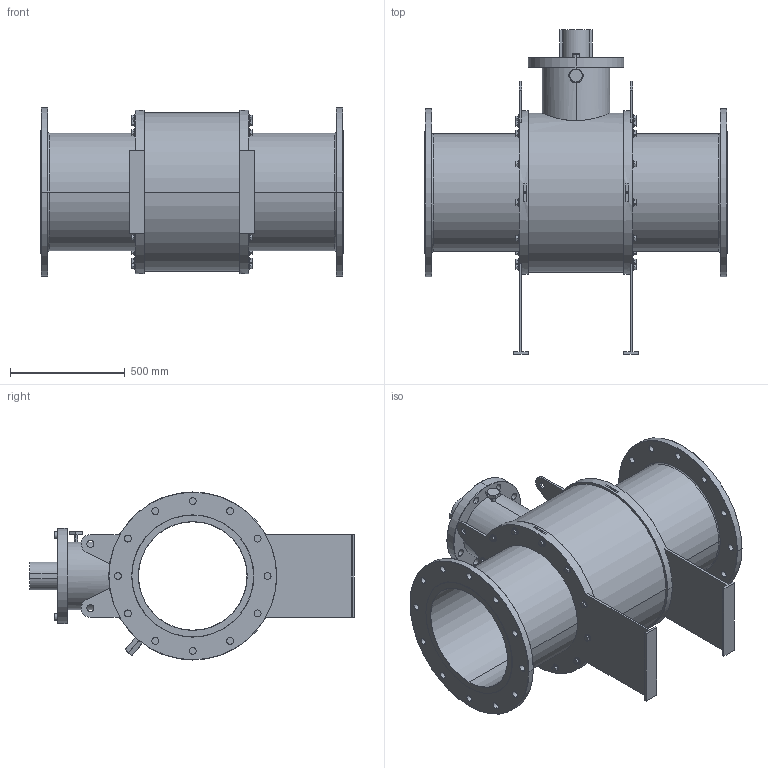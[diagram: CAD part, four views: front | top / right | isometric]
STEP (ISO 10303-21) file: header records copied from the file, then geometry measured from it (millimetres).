
FILE_DESCRIPTION (( 'STEP AP203' ), '1' );
FILE_NAME ('GB2_ANSI_900_20IN_TW.STEP', '2025-10-09T15:14:48', ( '' ), ( '' ), 'SwSTEP 2.0', 'SolidWorks 2025', '' );
FILE_SCHEMA (( 'CONFIG_CONTROL_DESIGN' ));
Length unit declared in the file: millimetre
Products named in the file (3): GB2_ANSI_2500_1500_ANSI_900_20IN; GB2_ANSI_900_20IN_TW; hex flange screw_am_B18.2.3.4M - Hex flange screw, M16 x 2.0 x 25 --25N
Assembly tree (25 placements, depth 2):
  GB2_ANSI_900_20IN_TW
    GB2_ANSI_2500_1500_ANSI_900_20IN
    hex flange screw_am_B18.2.3.4M - Hex flange screw, M16 x 2.0 x 25 --25N  x24
Bounding box: 1321 x 1416.5 x 733.1 mm (x, y, z)
Volume: 164762376.6 mm3; surface area: 7149069.6 mm2
Topology: 25 solids, 25 shells, 1041 faces, 2326 edges, 1392 vertices
Faces by surface type: plane 325, cone 270, cylinder 230, bspline 156, torus 54, sphere 6
Entity records: 14004 total; most frequent: CARTESIAN_POINT 3987, DIRECTION 2022, ORIENTED_EDGE 1792, EDGE_CURVE 896, AXIS2_PLACEMENT_3D 820, VERTEX_POINT 562, EDGE_LOOP 492, CIRCLE 436
